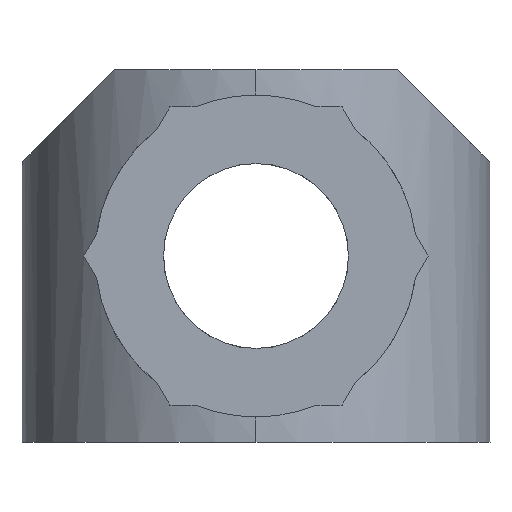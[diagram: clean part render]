
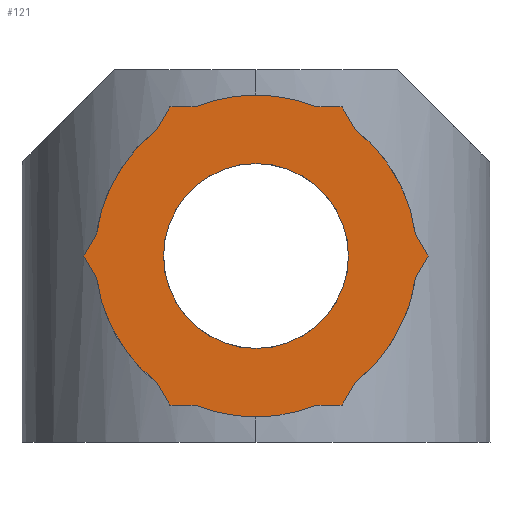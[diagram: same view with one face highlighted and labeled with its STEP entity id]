
A CAD part, left-side view. The second image highlights one B-rep face of the part: STEP entity #121.
In plain terms, the highlighted planar face has unit normal (-1, 0, 0).
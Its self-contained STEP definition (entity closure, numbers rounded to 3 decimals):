
#121=ADVANCED_FACE('NONE',(#247,#248),#249,.T.);
#247=FACE_OUTER_BOUND('',#376,.T.);
#248=FACE_BOUND('',#377,.T.);
#249=PLANE('',#378);
#376=EDGE_LOOP('',(#647,#648,#649,#650,#651,#652,#653,#654,#655,#656,#657,#658,#659,#660,#661,#662,#663,#664,#665,#666));
#377=EDGE_LOOP('',(#667,#668));
#378=AXIS2_PLACEMENT_3D('',#669,#670,#671);
#647=ORIENTED_EDGE('',*,*,#846,.T.);
#648=ORIENTED_EDGE('',*,*,#921,.T.);
#649=ORIENTED_EDGE('',*,*,#841,.T.);
#650=ORIENTED_EDGE('',*,*,#832,.T.);
#651=ORIENTED_EDGE('',*,*,#809,.T.);
#652=ORIENTED_EDGE('',*,*,#913,.T.);
#653=ORIENTED_EDGE('',*,*,#856,.T.);
#654=ORIENTED_EDGE('',*,*,#908,.T.);
#655=ORIENTED_EDGE('',*,*,#916,.T.);
#656=ORIENTED_EDGE('',*,*,#875,.T.);
#657=ORIENTED_EDGE('',*,*,#860,.T.);
#658=ORIENTED_EDGE('',*,*,#922,.T.);
#659=ORIENTED_EDGE('',*,*,#923,.T.);
#660=ORIENTED_EDGE('',*,*,#887,.T.);
#661=ORIENTED_EDGE('',*,*,#892,.T.);
#662=ORIENTED_EDGE('',*,*,#924,.T.);
#663=ORIENTED_EDGE('',*,*,#925,.T.);
#664=ORIENTED_EDGE('',*,*,#871,.T.);
#665=ORIENTED_EDGE('',*,*,#837,.T.);
#666=ORIENTED_EDGE('',*,*,#919,.T.);
#667=ORIENTED_EDGE('',*,*,#904,.F.);
#668=ORIENTED_EDGE('',*,*,#804,.F.);
#669=CARTESIAN_POINT('',(1.65,0.0,6.25));
#670=DIRECTION('',(-1.0,0.0,0.0));
#671=DIRECTION('',(0.0,0.0,1.0));
#804=EDGE_CURVE('NONE',#959,#961,#962,.T.);
#809=EDGE_CURVE('NONE',#970,#968,#971,.T.);
#832=EDGE_CURVE('NONE',#1009,#970,#1010,.T.);
#837=EDGE_CURVE('NONE',#1018,#1016,#1019,.T.);
#841=EDGE_CURVE('NONE',#1024,#1009,#1025,.T.);
#846=EDGE_CURVE('NONE',#1033,#1031,#1034,.T.);
#856=EDGE_CURVE('NONE',#1050,#1048,#1051,.T.);
#860=EDGE_CURVE('NONE',#1057,#1055,#1058,.T.);
#871=EDGE_CURVE('NONE',#1073,#1018,#1074,.T.);
#875=EDGE_CURVE('NONE',#1079,#1057,#1080,.T.);
#887=EDGE_CURVE('NONE',#1101,#1099,#1102,.T.);
#892=EDGE_CURVE('NONE',#1099,#1107,#1109,.T.);
#904=EDGE_CURVE('NONE',#961,#959,#1124,.T.);
#908=EDGE_CURVE('NONE',#1048,#1128,#1130,.T.);
#913=EDGE_CURVE('NONE',#968,#1050,#1135,.T.);
#916=EDGE_CURVE('NONE',#1128,#1079,#1138,.T.);
#919=EDGE_CURVE('NONE',#1016,#1033,#1141,.T.);
#921=EDGE_CURVE('NONE',#1031,#1024,#1143,.T.);
#922=EDGE_CURVE('NONE',#1055,#1144,#1145,.T.);
#923=EDGE_CURVE('NONE',#1144,#1101,#1146,.T.);
#924=EDGE_CURVE('NONE',#1107,#1147,#1148,.T.);
#925=EDGE_CURVE('NONE',#1147,#1073,#1149,.T.);
#959=VERTEX_POINT('NONE',#1218);
#961=VERTEX_POINT('NONE',#1221);
#962=CIRCLE('',#1222,3.1);
#968=VERTEX_POINT('NONE',#1238);
#970=VERTEX_POINT('NONE',#1241);
#971=CIRCLE('',#1242,5.4);
#1009=VERTEX_POINT('NONE',#1307);
#1010=LINE('',#1308,#1309);
#1016=VERTEX_POINT('NONE',#1326);
#1018=VERTEX_POINT('NONE',#1329);
#1019=LINE('',#1330,#1331);
#1024=VERTEX_POINT('NONE',#1337);
#1025=LINE('',#1338,#1339);
#1031=VERTEX_POINT('NONE',#1353);
#1033=VERTEX_POINT('NONE',#1356);
#1034=CIRCLE('',#1357,5.4);
#1048=VERTEX_POINT('NONE',#1384);
#1050=VERTEX_POINT('NONE',#1387);
#1051=LINE('',#1388,#1389);
#1055=VERTEX_POINT('',#1394);
#1057=VERTEX_POINT('NONE',#1397);
#1058=CIRCLE('',#1398,5.4);
#1073=VERTEX_POINT('NONE',#1434);
#1074=CIRCLE('',#1435,5.4);
#1079=VERTEX_POINT('NONE',#1441);
#1080=LINE('',#1442,#1443);
#1099=VERTEX_POINT('NONE',#1475);
#1101=VERTEX_POINT('NONE',#1478);
#1102=LINE('',#1479,#1480);
#1107=VERTEX_POINT('NONE',#1495);
#1109=CIRCLE('',#1498,5.4);
#1124=CIRCLE('',#1550,3.1);
#1128=VERTEX_POINT('NONE',#1565);
#1130=CIRCLE('',#1568,5.4);
#1135=LINE('',#1593,#1594);
#1138=LINE('',#1607,#1608);
#1141=LINE('',#1611,#1612);
#1143=CIRCLE('',#1614,5.4);
#1144=VERTEX_POINT('NONE',#1615);
#1145=CIRCLE('',#1616,5.4);
#1146=LINE('',#1617,#1618);
#1147=VERTEX_POINT('NONE',#1619);
#1148=LINE('',#1620,#1621);
#1149=LINE('',#1622,#1623);
#1218=CARTESIAN_POINT('',(1.65,0.,3.15));
#1221=CARTESIAN_POINT('',(1.65,0.0,9.35));
#1222=AXIS2_PLACEMENT_3D('',#1709,#1710,#1711);
#1238=CARTESIAN_POINT('',(1.65,-5.35,5.516));
#1241=CARTESIAN_POINT('',(1.65,-3.31,1.984));
#1242=AXIS2_PLACEMENT_3D('',#1714,#1715,#1716);
#1307=CARTESIAN_POINT('',(1.65,-2.887,1.25));
#1308=CARTESIAN_POINT('',(1.65,-2.887,1.25));
#1309=VECTOR('',#1734,1000.0);
#1326=CARTESIAN_POINT('',(1.65,2.887,1.25));
#1329=CARTESIAN_POINT('',(1.65,3.31,1.984));
#1330=CARTESIAN_POINT('',(1.65,3.31,1.984));
#1331=VECTOR('',#1737,1000.0);
#1337=CARTESIAN_POINT('',(1.65,-2.04,1.25));
#1338=CARTESIAN_POINT('',(1.65,-2.04,1.25));
#1339=VECTOR('',#1742,1000.0);
#1353=CARTESIAN_POINT('',(1.65,0.0,0.85));
#1356=CARTESIAN_POINT('',(1.65,2.04,1.25));
#1357=AXIS2_PLACEMENT_3D('',#1745,#1746,#1747);
#1384=CARTESIAN_POINT('',(1.65,-5.35,6.984));
#1387=CARTESIAN_POINT('',(1.65,-5.774,6.25));
#1388=CARTESIAN_POINT('',(1.65,-5.774,6.25));
#1389=VECTOR('',#1758,1000.0);
#1394=CARTESIAN_POINT('',(1.65,0.,11.65));
#1397=CARTESIAN_POINT('',(1.65,-2.04,11.25));
#1398=AXIS2_PLACEMENT_3D('',#1761,#1762,#1763);
#1434=CARTESIAN_POINT('',(1.65,5.35,5.516));
#1435=AXIS2_PLACEMENT_3D('',#1769,#1770,#1771);
#1441=CARTESIAN_POINT('',(1.65,-2.887,11.25));
#1442=CARTESIAN_POINT('',(1.65,-2.887,11.25));
#1443=VECTOR('',#1776,1000.0);
#1475=CARTESIAN_POINT('',(1.65,3.31,10.516));
#1478=CARTESIAN_POINT('',(1.65,2.887,11.25));
#1479=CARTESIAN_POINT('',(1.65,2.887,11.25));
#1480=VECTOR('',#1793,1000.0);
#1495=CARTESIAN_POINT('',(1.65,5.35,6.984));
#1498=AXIS2_PLACEMENT_3D('',#1796,#1797,#1798);
#1550=AXIS2_PLACEMENT_3D('',#1809,#1810,#1811);
#1565=CARTESIAN_POINT('',(1.65,-3.31,10.516));
#1568=AXIS2_PLACEMENT_3D('',#1813,#1814,#1815);
#1593=CARTESIAN_POINT('',(1.65,-5.35,5.516));
#1594=VECTOR('',#1816,1000.0);
#1607=CARTESIAN_POINT('',(1.65,-3.31,10.516));
#1608=VECTOR('',#1817,1000.0);
#1611=CARTESIAN_POINT('',(1.65,2.887,1.25));
#1612=VECTOR('',#1821,1000.0);
#1614=AXIS2_PLACEMENT_3D('',#1822,#1823,#1824);
#1615=CARTESIAN_POINT('',(1.65,2.04,11.25));
#1616=AXIS2_PLACEMENT_3D('',#1825,#1826,#1827);
#1617=CARTESIAN_POINT('',(1.65,2.04,11.25));
#1618=VECTOR('',#1828,1000.0);
#1619=CARTESIAN_POINT('',(1.65,5.774,6.25));
#1620=CARTESIAN_POINT('',(1.65,5.35,6.984));
#1621=VECTOR('',#1829,1000.0);
#1622=CARTESIAN_POINT('',(1.65,5.774,6.25));
#1623=VECTOR('',#1830,1000.0);
#1709=CARTESIAN_POINT('',(1.65,0.0,6.25));
#1710=DIRECTION('',(-1.0,0.0,0.0));
#1711=DIRECTION('',(0.0,0.0,1.0));
#1714=CARTESIAN_POINT('',(1.65,0.0,6.25));
#1715=DIRECTION('',(-1.0,0.0,0.0));
#1716=DIRECTION('',(0.0,0.0,1.0));
#1734=DIRECTION('',(0.0,-0.5,0.866));
#1737=DIRECTION('',(0.0,-0.5,-0.866));
#1742=DIRECTION('',(0.0,-1.0,0.));
#1745=CARTESIAN_POINT('',(1.65,0.0,6.25));
#1746=DIRECTION('',(-1.0,0.0,0.0));
#1747=DIRECTION('',(0.0,0.0,1.0));
#1758=DIRECTION('',(0.0,0.5,0.866));
#1761=CARTESIAN_POINT('',(1.65,0.0,6.25));
#1762=DIRECTION('',(-1.0,0.0,0.0));
#1763=DIRECTION('',(0.0,0.0,1.0));
#1769=CARTESIAN_POINT('',(1.65,0.0,6.25));
#1770=DIRECTION('',(-1.0,0.0,0.0));
#1771=DIRECTION('',(0.0,0.0,1.0));
#1776=DIRECTION('',(0.0,1.0,0.0));
#1793=DIRECTION('',(0.0,0.5,-0.866));
#1796=CARTESIAN_POINT('',(1.65,0.0,6.25));
#1797=DIRECTION('',(-1.0,0.0,0.0));
#1798=DIRECTION('',(0.0,0.0,1.0));
#1809=CARTESIAN_POINT('',(1.65,0.0,6.25));
#1810=DIRECTION('',(-1.0,0.0,0.0));
#1811=DIRECTION('',(0.0,0.0,1.0));
#1813=CARTESIAN_POINT('',(1.65,0.0,6.25));
#1814=DIRECTION('',(-1.0,0.0,0.0));
#1815=DIRECTION('',(0.0,0.0,1.0));
#1816=DIRECTION('',(0.0,-0.5,0.866));
#1817=DIRECTION('',(0.0,0.5,0.866));
#1821=DIRECTION('',(0.0,-1.0,0.));
#1822=CARTESIAN_POINT('',(1.65,0.0,6.25));
#1823=DIRECTION('',(-1.0,0.0,0.0));
#1824=DIRECTION('',(0.0,0.0,1.0));
#1825=CARTESIAN_POINT('',(1.65,0.0,6.25));
#1826=DIRECTION('',(-1.0,0.0,0.0));
#1827=DIRECTION('',(0.0,0.0,1.0));
#1828=DIRECTION('',(0.0,1.0,0.));
#1829=DIRECTION('',(0.0,0.5,-0.866));
#1830=DIRECTION('',(0.0,-0.5,-0.866));
